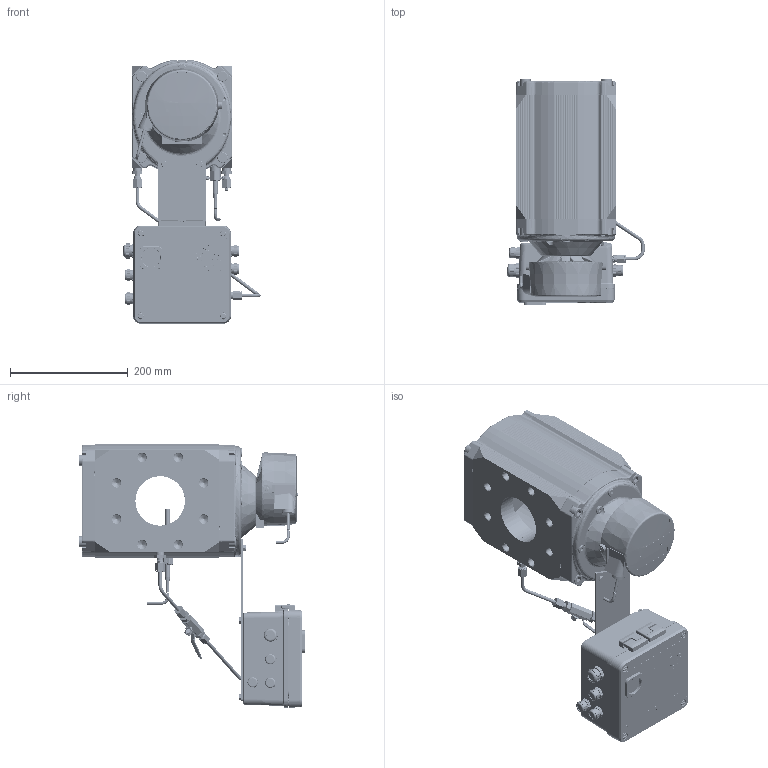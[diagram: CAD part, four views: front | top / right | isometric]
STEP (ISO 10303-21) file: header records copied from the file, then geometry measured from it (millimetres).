
FILE_DESCRIPTION(('STEP AP242'), '1');
FILE_NAME('ÑÃ-ÝÊÐ-Ð-160 ÐÂÃ-À ïðàâûé', '', ('UNSPECIFIED'), ('UNSPECIFIED'), 'C3D Converter', 'C3D Toolkit', '');
FILE_SCHEMA(('AP242_MANAGED_MODEL_BASED_3D_ENGINEERING_MIM_LF { 1 0 10303 442 1 1 4 }'));
Length unit declared in the file: millimetre
Bounding box: 233.01 x 384 x 446.5 mm (x, y, z)
Volume: 5341384.7 mm3; surface area: 1050303.3 mm2
Topology: 70 solids, 70 shells, 4911 faces, 12773 edges, 8240 vertices
Faces by surface type: plane 1456, cylinder 1313, extrusion 1105, cone 542, bspline 272, torus 189, sphere 34
Full cylindrical faces by diameter (mm): 2 x29, 2.459 x4, 2.5 x8, 3 x2, 3.1 x1, 3.2 x5, 3.242 x7, 3.459 x2, 4 x19, 4.134 x1, 4.2 x6, 4.3 x2, 4.5 x1, 4.917 x15, 5 x17, 5.5 x1, 5.8 x4, 6 x42, 6.2 x8, 7 x6, 8 x3, 8.1 x1, 8.5 x1, 9 x5, 9.264 x4, 10 x12, 10.25 x8, 10.5 x1, 10.598 x2, 10.7 x2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
Entity records: 275686 total; most frequent: CARTESIAN_POINT 125801, ORIENTED_EDGE 23994, DIRECTION 18786, EDGE_CURVE 11997, VERTEX_POINT 8179, AXIS2_PLACEMENT_3D 6390, EDGE_LOOP 6058, VECTOR 6006
